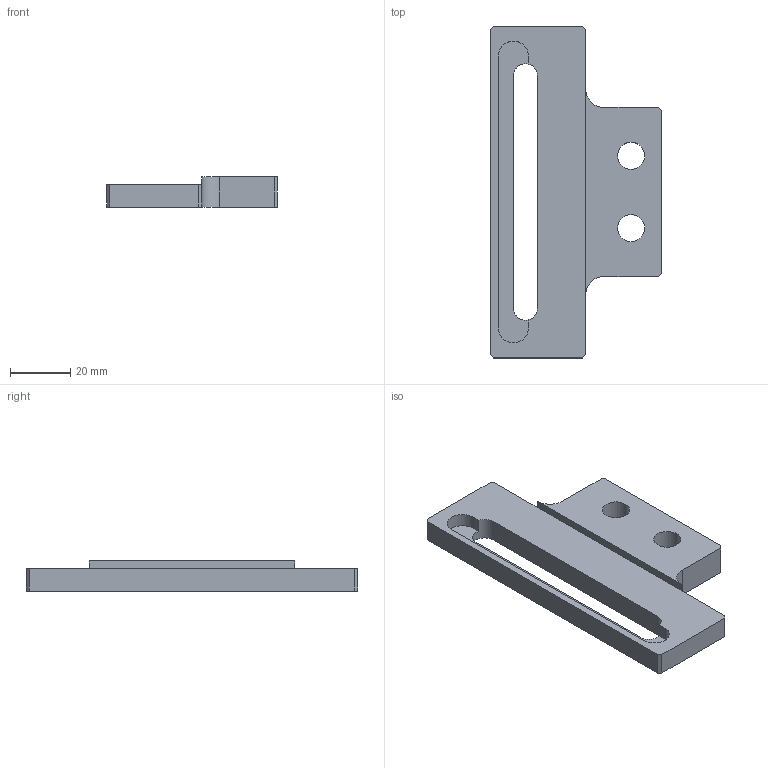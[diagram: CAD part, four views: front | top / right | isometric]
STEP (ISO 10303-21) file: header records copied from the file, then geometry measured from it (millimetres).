
FILE_DESCRIPTION(('STEP AP203'), '1');
FILE_NAME('ÒÏÏÔ1800.01.01.00.046 - Äåðæàòåëü ñêîëüçóíà', '', ('UNSPECIFIED'), ('UNSPECIFIED'), 'C3D Converter', 'C3D Toolkit', '');
FILE_SCHEMA(('CONFIG_CONTROL_DESIGN'));
Length unit declared in the file: millimetre
Products named in the file (1): ТППФ1800.01.01.00.046
Bounding box: 56.5 x 110 x 10 mm (x, y, z)
Volume: 31084.8 mm3; surface area: 13009.9 mm2
Topology: 1 solids, 1 shells, 35 faces, 95 edges, 62 vertices
Faces by surface type: plane 27, cylinder 8
Full cylindrical faces by diameter (mm): 9 x2
Entity records: 1412 total; most frequent: CARTESIAN_POINT 191, ORIENTED_EDGE 186, DIRECTION 183, EDGE_CURVE 93, LINE 75, VECTOR 75, VERTEX_POINT 62, AXIS2_PLACEMENT_3D 54
